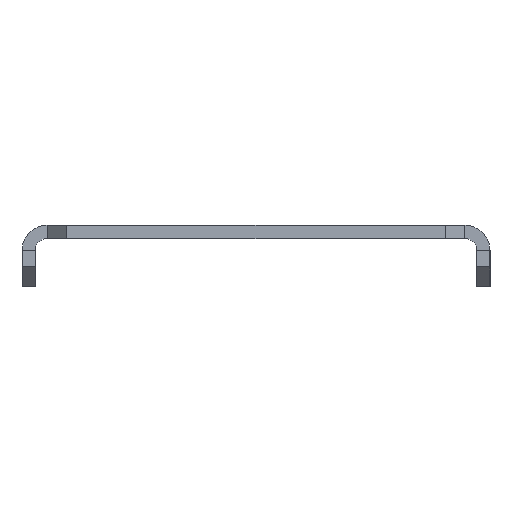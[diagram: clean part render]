
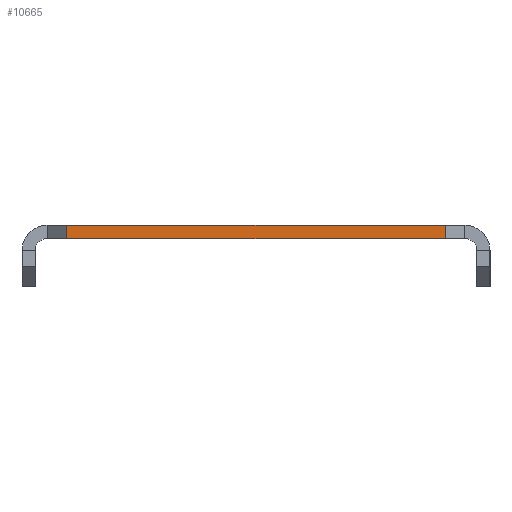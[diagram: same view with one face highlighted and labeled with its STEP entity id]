
A CAD part, left-side view. The second image highlights one B-rep face of the part: STEP entity #10665.
In plain terms, the highlighted planar face has unit normal (-1, 0, 0).
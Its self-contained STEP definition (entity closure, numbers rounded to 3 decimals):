
#19 = CARTESIAN_POINT ( 'NONE',  ( -187.5, -28.655, 0. ) ) ;
#933 = AXIS2_PLACEMENT_3D ( 'NONE', #7672, #1485, #5881 ) ;
#1087 = FACE_OUTER_BOUND ( 'NONE', #3714, .T. ) ;
#1270 = VERTEX_POINT ( 'NONE', #8549 ) ;
#1485 = DIRECTION ( 'NONE',  ( 1., 0., 0. ) ) ;
#2190 = VECTOR ( 'NONE', #3220, 1000. ) ;
#2494 = DIRECTION ( 'NONE',  ( 0., 1., 0. ) ) ;
#2664 = CARTESIAN_POINT ( 'NONE',  ( -187.5, 31.655, 0. ) ) ;
#2819 = EDGE_CURVE ( 'NONE', #1270, #11466, #9634, .T. ) ;
#2846 = VECTOR ( 'NONE', #5480, 1000. ) ;
#2849 = EDGE_CURVE ( 'NONE', #4460, #9169, #5296, .T. ) ;
#3047 = ORIENTED_EDGE ( 'NONE', *, *, #7721, .T. ) ;
#3217 = VECTOR ( 'NONE', #2494, 1000. ) ;
#3220 = DIRECTION ( 'NONE',  ( 0., 0., 1. ) ) ;
#3714 = EDGE_LOOP ( 'NONE', ( #10998, #8932, #6209, #3047 ) ) ;
#3774 = CARTESIAN_POINT ( 'NONE',  ( -187.5, 28.655, 0. ) ) ;
#4374 = CARTESIAN_POINT ( 'NONE',  ( -187.5, 28.655, 2. ) ) ;
#4460 = VERTEX_POINT ( 'NONE', #19 ) ;
#5107 = CARTESIAN_POINT ( 'NONE',  ( -187.5, -28.655, 0. ) ) ;
#5296 = LINE ( 'NONE', #2664, #9490 ) ;
#5480 = DIRECTION ( 'NONE',  ( 0., 0., -1. ) ) ;
#5881 = DIRECTION ( 'NONE',  ( 0., 0., -1. ) ) ;
#5995 = PLANE ( 'NONE',  #933 ) ;
#6020 = CARTESIAN_POINT ( 'NONE',  ( -187.5, 31.655, 2. ) ) ;
#6209 = ORIENTED_EDGE ( 'NONE', *, *, #2819, .T. ) ;
#7672 = CARTESIAN_POINT ( 'NONE',  ( -187.5, 31.655, 0. ) ) ;
#7721 = EDGE_CURVE ( 'NONE', #11466, #9169, #9931, .T. ) ;
#8549 = CARTESIAN_POINT ( 'NONE',  ( -187.5, -28.655, 2. ) ) ;
#8932 = ORIENTED_EDGE ( 'NONE', *, *, #10210, .T. ) ;
#9169 = VERTEX_POINT ( 'NONE', #10312 ) ;
#9298 = LINE ( 'NONE', #5107, #2190 ) ;
#9490 = VECTOR ( 'NONE', #11522, 1000. ) ;
#9634 = LINE ( 'NONE', #6020, #3217 ) ;
#9931 = LINE ( 'NONE', #3774, #2846 ) ;
#10210 = EDGE_CURVE ( 'NONE', #4460, #1270, #9298, .T. ) ;
#10312 = CARTESIAN_POINT ( 'NONE',  ( -187.5, 28.655, 0. ) ) ;
#10665 = ADVANCED_FACE ( 'NONE', ( #1087 ), #5995, .F. ) ;
#10998 = ORIENTED_EDGE ( 'NONE', *, *, #2849, .F. ) ;
#11466 = VERTEX_POINT ( 'NONE', #4374 ) ;
#11522 = DIRECTION ( 'NONE',  ( 0., 1., 0. ) ) ;
